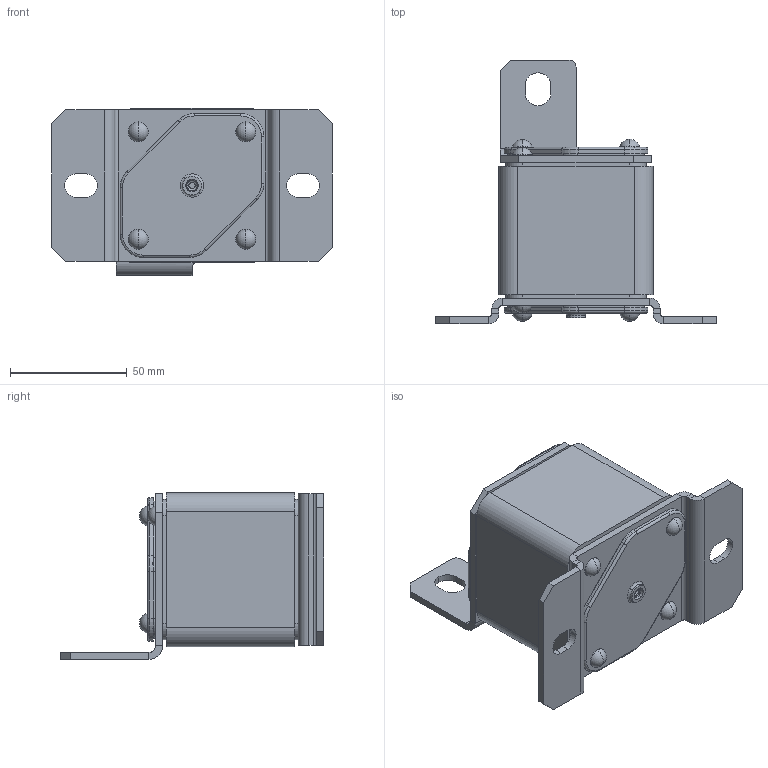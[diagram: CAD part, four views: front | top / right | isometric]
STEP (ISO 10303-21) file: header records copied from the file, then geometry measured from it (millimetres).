
FILE_DESCRIPTION (( 'STEP AP214' ), '1' );
FILE_NAME ('Ïðåäîõðàíèòåëü ÏÏ57-37380-Ñ-XXXA-XXXX-ÊÝÀÇ.STEP', '2023-05-11T12:01:23', ( '' ), ( '' ), 'SwSTEP 2.0', 'SolidWorks 2018', '' );
FILE_SCHEMA (( 'AUTOMOTIVE_DESIGN' ));
Length unit declared in the file: millimetre
Products named in the file (1): Ïðåäîõðàíèòåëü ÏÏ57-37380-Ñ-XXXA-XXXX-ÊÝÀÇ
Bounding box: 120 x 113 x 71.5 mm (x, y, z)
Volume: 299476.6 mm3; surface area: 50340.2 mm2
Topology: 1 solids, 15 shells, 411 faces, 953 edges, 593 vertices
Faces by surface type: plane 168, cylinder 155, torus 40, cone 32, sphere 16
Entity records: 16353 total; most frequent: DIRECTION 2260, CARTESIAN_POINT 2000, ORIENTED_EDGE 1906, EDGE_CURVE 953, AXIS2_PLACEMENT_3D 897, VERTEX_POINT 593, CIRCLE 485, LINE 466
